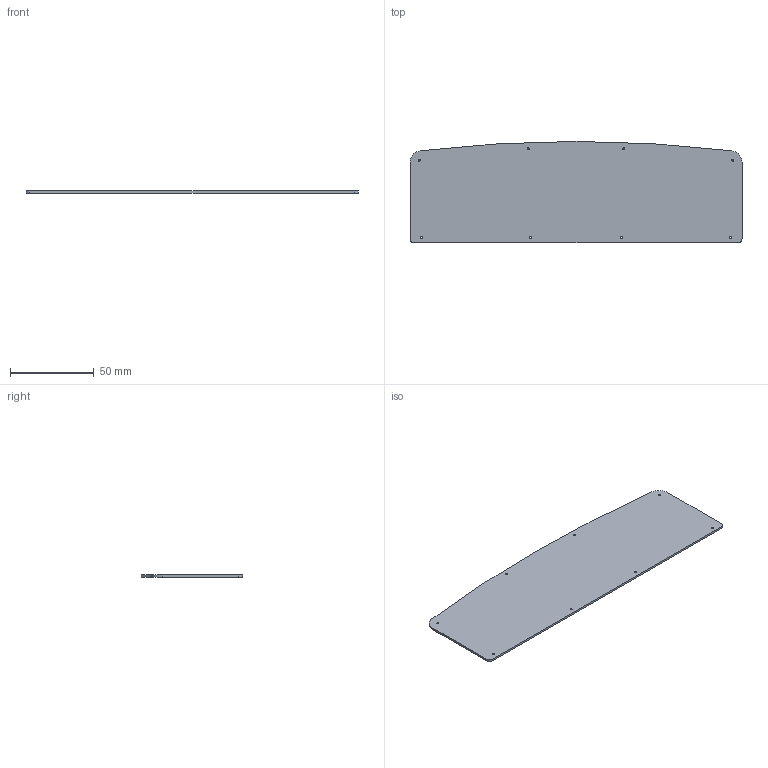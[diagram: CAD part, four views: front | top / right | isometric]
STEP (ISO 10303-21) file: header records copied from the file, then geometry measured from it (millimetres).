
FILE_DESCRIPTION(('Open CASCADE Model'),'2;1');
FILE_NAME('Open CASCADE Shape Model','2026-09-26T16:24:15',('Author'),( 'Open CASCADE'),'Open CASCADE STEP processor 7.9','Open CASCADE 7.9' ,'Unknown');
FILE_SCHEMA(('AUTOMOTIVE_DESIGN { 1 0 10303 214 1 1 1 1 }'));
Length unit declared in the file: millimetre
Products named in the file (1): Open CASCADE STEP translator 7.9 4
Bounding box: 197.94 x 60.27 x 1.22 mm (x, y, z)
Volume: 14010.3 mm3; surface area: 23619 mm2
Topology: 1 solids, 1 shells, 18 faces, 48 edges, 32 vertices
Faces by surface type: cylinder 13, plane 5
Full cylindrical faces by diameter (mm): 1.138 x8
Entity records: 1192 total; most frequent: CARTESIAN_POINT 247, DIRECTION 156, ORIENTED_EDGE 96, PCURVE 96, DEFINITIONAL_REPRESENTATION 96, B_SPLINE_CURVE_WITH_KNOTS 52, CIRCLE 52, EDGE_CURVE 48
